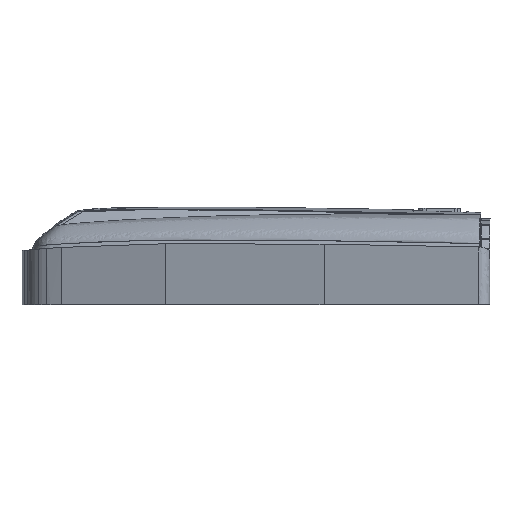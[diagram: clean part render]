
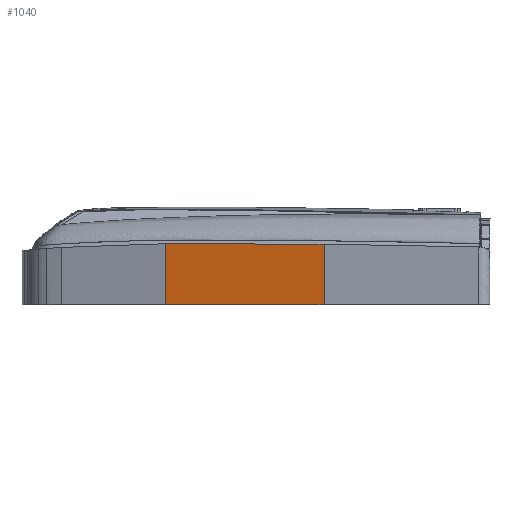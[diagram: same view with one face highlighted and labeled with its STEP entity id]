
A CAD part, left-side view. The second image highlights one B-rep face of the part: STEP entity #1040.
In plain terms, the highlighted free-form (B-spline) face has degree [1, 3] with [2, 5] control points.
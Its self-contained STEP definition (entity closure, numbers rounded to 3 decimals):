
#1040=ADVANCED_FACE('',(#1410),#10941,.T.);
#1410=FACE_OUTER_BOUND('',#1780,.T.);
#1780=EDGE_LOOP('',(#2847,#2848,#2849,#2850));
#2847=ORIENTED_EDGE('',*,*,#5075,.T.);
#2848=ORIENTED_EDGE('',*,*,#5074,.F.);
#2849=ORIENTED_EDGE('',*,*,#5073,.T.);
#2850=ORIENTED_EDGE('',*,*,#5076,.F.);
#5073=EDGE_CURVE('',#9422,#9423,#7293,.T.);
#5074=EDGE_CURVE('',#9422,#9425,#7294,.T.);
#5075=EDGE_CURVE('',#9424,#9425,#7295,.T.);
#5076=EDGE_CURVE('',#9424,#9423,#7296,.T.);
#7293=B_SPLINE_CURVE_WITH_KNOTS('',3,(#37440,#37441,#37442,#37443,#37444),
 .UNSPECIFIED.,.F.,.F.,(4,1,4),(0.,0.5,1.),
 .UNSPECIFIED.);
#7294=B_SPLINE_CURVE_WITH_KNOTS('',1,(#37445,#37446),.UNSPECIFIED.,.F.,
 .F.,(2,2),(0.,0.896),.UNSPECIFIED.);
#7295=B_SPLINE_CURVE_WITH_KNOTS('',3,(#37447,#37448,#37449,#37450,#37451,
#37452,#37453,#37454,#37455,#37456,#37457),.UNSPECIFIED.,.F.,.F.,(4,2,3,
2,4),(0.,120.163,240.333,360.503,
480.662),.UNSPECIFIED.);
#7296=B_SPLINE_CURVE_WITH_KNOTS('',1,(#37458,#37459),.UNSPECIFIED.,.F.,
 .F.,(2,2),(0.095,1.),.UNSPECIFIED.);
#9422=VERTEX_POINT('',#37436);
#9423=VERTEX_POINT('',#37437);
#9424=VERTEX_POINT('',#37438);
#9425=VERTEX_POINT('',#37439);
#10941=B_SPLINE_SURFACE_WITH_KNOTS('',1,3,((#37426,#37427,#37428,#37429,
#37430),(#37431,#37432,#37433,#37434,#37435)),.UNSPECIFIED.,.F.,.F.,.F.,
(2,2),(4,1,4),(0.,180.392),(0.,240.345,480.689),
 .UNSPECIFIED.);
#37426=CARTESIAN_POINT('',(-783.914,485.205,0.));
#37427=CARTESIAN_POINT('',(-764.797,562.998,0.));
#37428=CARTESIAN_POINT('',(-723.95,717.941,0.));
#37429=CARTESIAN_POINT('',(-677.924,871.426,0.));
#37430=CARTESIAN_POINT('',(-653.63,947.761,0.));
#37431=CARTESIAN_POINT('',(-783.914,485.205,200.723));
#37432=CARTESIAN_POINT('',(-764.797,562.998,200.723));
#37433=CARTESIAN_POINT('',(-723.95,717.941,200.723));
#37434=CARTESIAN_POINT('',(-677.924,871.426,200.723));
#37435=CARTESIAN_POINT('',(-653.63,947.761,200.723));
#37436=CARTESIAN_POINT('',(-653.63,947.761,0.));
#37437=CARTESIAN_POINT('',(-783.914,485.205,0.));
#37438=CARTESIAN_POINT('',(-783.914,485.205,177.462));
#37439=CARTESIAN_POINT('',(-653.63,947.761,178.855));
#37440=CARTESIAN_POINT('',(-653.63,947.761,0.));
#37441=CARTESIAN_POINT('',(-677.924,871.426,0.));
#37442=CARTESIAN_POINT('',(-723.95,717.941,0.));
#37443=CARTESIAN_POINT('',(-764.797,562.998,0.));
#37444=CARTESIAN_POINT('',(-783.914,485.205,0.));
#37445=CARTESIAN_POINT('',(-653.63,947.761,0.));
#37446=CARTESIAN_POINT('',(-653.63,947.761,178.855));
#37447=CARTESIAN_POINT('',(-783.914,485.205,177.462));
#37448=CARTESIAN_POINT('',(-774.356,524.1,177.894));
#37449=CARTESIAN_POINT('',(-764.47,562.919,178.285));
#37450=CARTESIAN_POINT('',(-744.051,640.376,178.951));
#37451=CARTESIAN_POINT('',(-733.514,679.025,179.227));
#37452=CARTESIAN_POINT('',(-722.655,717.577,179.407));
#37453=CARTESIAN_POINT('',(-711.801,756.114,179.587));
#37454=CARTESIAN_POINT('',(-700.609,794.609,179.673));
#37455=CARTESIAN_POINT('',(-677.609,871.306,179.535));
#37456=CARTESIAN_POINT('',(-665.77,909.615,179.311));
#37457=CARTESIAN_POINT('',(-653.63,947.761,178.855));
#37458=CARTESIAN_POINT('',(-783.914,485.205,177.462));
#37459=CARTESIAN_POINT('',(-783.914,485.205,0.));
